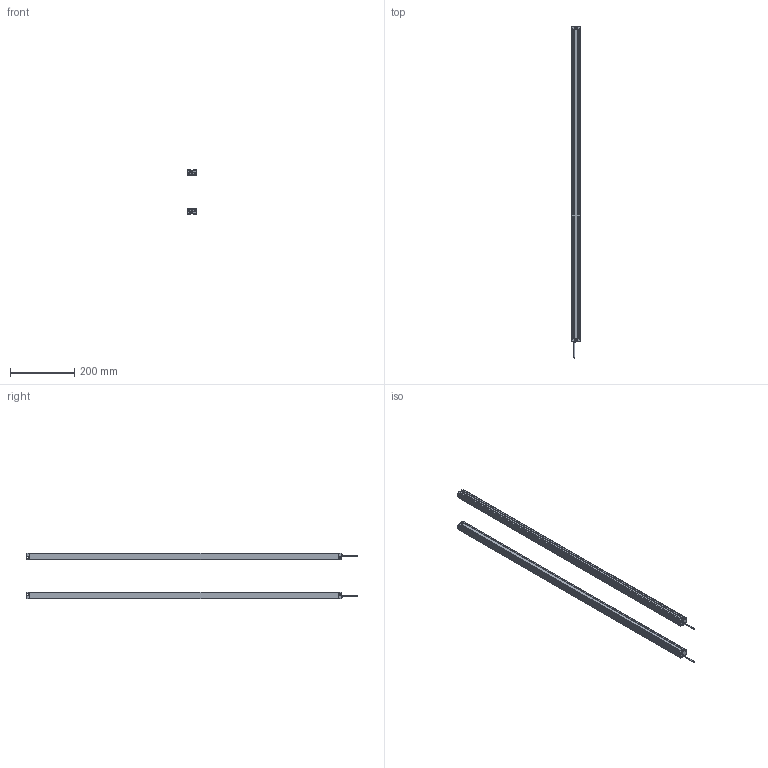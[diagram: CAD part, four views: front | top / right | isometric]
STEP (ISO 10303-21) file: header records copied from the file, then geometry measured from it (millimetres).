
FILE_DESCRIPTION (( 'STEP AP214' ), '1' );
FILE_NAME ('MTC4820.STEP', '2022-08-02T09:05:45', ( '' ), ( '' ), 'SwSTEP 2.0', 'SolidWorks 2018', '' );
FILE_SCHEMA (( 'AUTOMOTIVE_DESIGN' ));
Length unit declared in the file: millimetre
Products named in the file (5): 噩砃P02^MTC; P02^MTC; P01^MTC; MTC waike^MTC; MTC4820
Assembly tree (6 placements, depth 2):
  MTC4820
    MTC waike^MTC  x2
    P01^MTC  x2
    P02^MTC
    噩砃P02^MTC
Bounding box: 25 x 1032 x 141.4 mm (x, y, z)
Volume: 324029.6 mm3; surface area: 448400.1 mm2
Topology: 8 solids, 8 shells, 480 faces, 1396 edges, 924 vertices
Faces by surface type: plane 272, cylinder 208
Entity records: 10886 total; most frequent: DIRECTION 1881, CARTESIAN_POINT 1878, ORIENTED_EDGE 1846, EDGE_CURVE 923, AXIS2_PLACEMENT_3D 637, VERTEX_POINT 610, VECTOR 607, LINE 607
